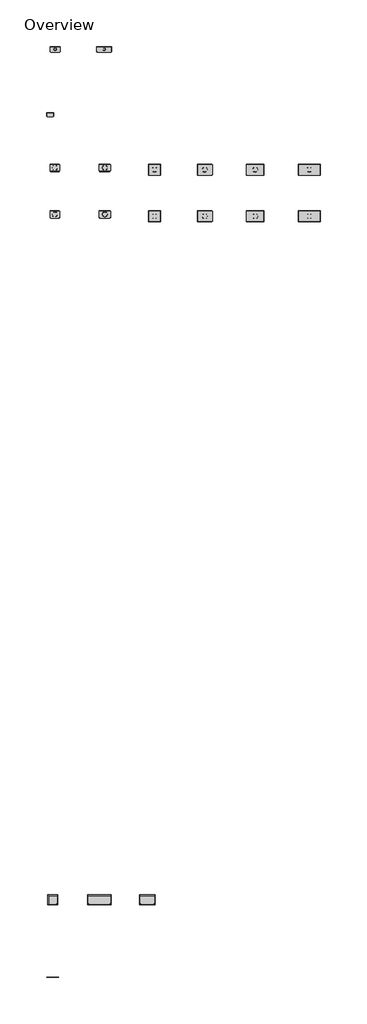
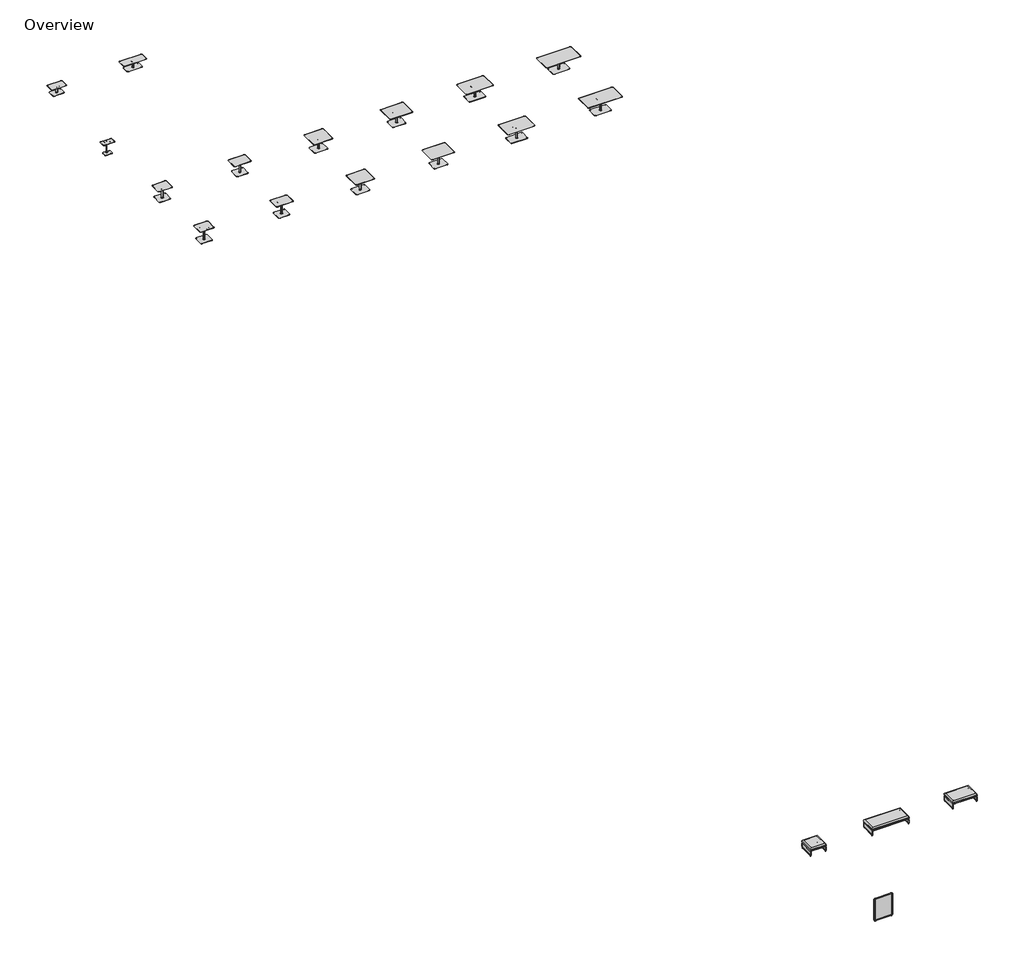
# One storey, incomplete: 19 furniture elements.
"""IFC4 building model written with IfcOpenShell, lengths in millimetres."""

from ifc_helpers import new_model, si_unit, origin, place, context, project, spatial, transform, mapped, element, save
from components import furniture_957b4211, furniture_e01ff0be, furniture_d2e51079, furniture_369bfe71, furniture_2e01fce7, furniture_39884a35, furniture_a224f28c, furniture_45d79633, furniture_f893dfc3, furniture_f20d2360, furniture_f47115b3, furniture_d3c9a054, furniture_e7e90b19, furniture_e72bf5eb, furniture_a1049126, furniture_50h_e364f507, one_seat_c15789ba, three_seat_fe4ea9a4, two_seat_4937a690

model = new_model("IFC4")

# Units and contexts
model_context = context("Model", 3, world=origin())
ifc_project = project(units=[si_unit("LENGTHUNIT", "METRE", prefix="MILLI")], contexts=[model_context])

# Site, building, storey
site = spatial("IfcSite", under=ifc_project)
building = spatial("IfcBuilding", under=site)
storey = spatial("IfcBuildingStorey", under=building, Name="Overview", Elevation=0.0)

# Furniture
placement = place(None, origin())
furniture_shape = furniture_957b4211(model_context)
element("IfcFurniture", 1, ObjectType="Coalesse_AM_Table_Occasional_Lagunitas : 18D x 32W", at=placement, inside=storey, context=model_context, shape_type="MappedRepresentation", body=[
    mapped(furniture_shape, transform((-12911.136443, 10187.2700634, 0.0), x_axis=(1.0, 0.0, 0.0), y_axis=(0.0, 1.0, 0.0), z_axis=(0.0, 0.0, 1.0))),
])
furniture_2_shape = furniture_e01ff0be(model_context)
element("IfcFurniture", 2, ObjectType="Coalesse_AM_Table_Occasional_Lagunitas : 18D x 48W", at=placement, inside=storey, context=model_context, shape_type="MappedRepresentation", body=[
    mapped(furniture_2_shape, transform((-8897.936443, 10187.2700634, 0.0), x_axis=(1.0, 0.0, 0.0), y_axis=(0.0, 1.0, 0.0), z_axis=(0.0, 0.0, 1.0))),
])
furniture_3_shape = furniture_d2e51079(model_context)
element("IfcFurniture", 3, ObjectType="Coalesse_AM_Table_Occasional_Lagunitas_Personal : 13D x 24W", at=placement, inside=storey, context=model_context, shape_type="MappedRepresentation", body=[
    mapped(furniture_3_shape, transform((-13317.536443, 4853.5613619, 0.0), x_axis=(1.0, 0.0, 0.0), y_axis=(0.0, 1.0, 0.0), z_axis=(0.0, 0.0, 1.0))),
])
furniture_4_shape = furniture_369bfe71(model_context)
element("IfcFurniture", 4, ObjectType="Coalesse_AM_Table_Occasional_Lagunitas_Work : 26H x 36D x 72W", at=placement, inside=storey, context=model_context, shape_type="MappedRepresentation", body=[
    mapped(furniture_4_shape, transform((7878.763557, 358.0501752, 0.0), x_axis=(1.0, 0.0, 0.0), y_axis=(0.0, 1.0, 0.0), z_axis=(0.0, 0.0, 1.0))),
])
furniture_5_shape = furniture_2e01fce7(model_context)
element("IfcFurniture", 5, ObjectType="Coalesse_AM_Table_Occasional_Lagunitas_Work : 26H x 36D x 57W", at=placement, inside=storey, context=model_context, shape_type="MappedRepresentation", body=[
    mapped(furniture_5_shape, transform((3459.163557, 358.0501752, 0.0), x_axis=(1.0, 0.0, 0.0), y_axis=(0.0, 1.0, 0.0), z_axis=(0.0, 0.0, 1.0))),
])
furniture_6_shape = furniture_39884a35(model_context)
element("IfcFurniture", 6, ObjectType="Coalesse_AM_Table_Occasional_Lagunitas_Work : 26H x 36D x 48W", at=placement, inside=storey, context=model_context, shape_type="MappedRepresentation", body=[
    mapped(furniture_6_shape, transform((-668.336443, 358.0501752, 0.0), x_axis=(1.0, 0.0, 0.0), y_axis=(0.0, 1.0, 0.0), z_axis=(0.0, 0.0, 1.0))),
])
furniture_7_shape = furniture_a224f28c(model_context)
element("IfcFurniture", 7, ObjectType="Coalesse_AM_Table_Occasional_Lagunitas_Work : 26H x 36D x 40W", at=placement, inside=storey, context=model_context, shape_type="MappedRepresentation", body=[
    mapped(furniture_7_shape, transform((-4783.136443, 358.0501752, 0.0), x_axis=(1.0, 0.0, 0.0), y_axis=(0.0, 1.0, 0.0), z_axis=(0.0, 0.0, 1.0))),
])
furniture_8_shape = furniture_45d79633(model_context)
element("IfcFurniture", 8, ObjectType="Coalesse_AM_Table_Occasional_Lagunitas_Work : 26H x 24D x 36W", at=placement, inside=storey, context=model_context, shape_type="MappedRepresentation", body=[
    mapped(furniture_8_shape, transform((-8847.136443, 510.4526603, 0.0), x_axis=(1.0, 0.0, 0.0), y_axis=(0.0, 1.0, 0.0), z_axis=(0.0, 0.0, 1.0))),
])
furniture_9_shape = furniture_f893dfc3(model_context)
element("IfcFurniture", 9, ObjectType="Coalesse_AM_Table_Occasional_Lagunitas_Work : 26H x 24D x 30W", at=placement, inside=storey, context=model_context, shape_type="MappedRepresentation", body=[
    mapped(furniture_9_shape, transform((-12936.536443, 510.4526603, 0.0), x_axis=(1.0, 0.0, 0.0), y_axis=(0.0, 1.0, 0.0), z_axis=(0.0, 0.0, 1.0))),
])
furniture_10_shape = furniture_f20d2360(model_context)
element("IfcFurniture", 10, ObjectType="Coalesse_AM_Table_Occasional_Lagunitas_Work : 28.5H x 24D x 30W", at=placement, inside=storey, context=model_context, shape_type="MappedRepresentation", body=[
    mapped(furniture_10_shape, transform((-12936.536443, -3299.5473397, 0.0), x_axis=(1.0, 0.0, 0.0), y_axis=(0.0, 1.0, 0.0), z_axis=(0.0, 0.0, 1.0))),
])
furniture_11_shape = furniture_f47115b3(model_context)
element("IfcFurniture", 11, ObjectType="Coalesse_AM_Table_Occasional_Lagunitas_Work : 28.5H x 24D x 36W", at=placement, inside=storey, context=model_context, shape_type="MappedRepresentation", body=[
    mapped(furniture_11_shape, transform((-8847.136443, -3299.5473397, 0.0), x_axis=(1.0, 0.0, 0.0), y_axis=(0.0, 1.0, 0.0), z_axis=(0.0, 0.0, 1.0))),
])
furniture_12_shape = furniture_d3c9a054(model_context)
element("IfcFurniture", 12, ObjectType="Coalesse_AM_Table_Occasional_Lagunitas_Work : 28.5H x 36D x 40W", at=placement, inside=storey, context=model_context, shape_type="MappedRepresentation", body=[
    mapped(furniture_12_shape, transform((-4783.136443, -3451.9498248, 0.0), x_axis=(1.0, 0.0, 0.0), y_axis=(0.0, 1.0, 0.0), z_axis=(0.0, 0.0, 1.0))),
])
furniture_13_shape = furniture_e7e90b19(model_context)
element("IfcFurniture", 13, ObjectType="Coalesse_AM_Table_Occasional_Lagunitas_Work : 28.5H x 36D x 48W", at=placement, inside=storey, context=model_context, shape_type="MappedRepresentation", body=[
    mapped(furniture_13_shape, transform((-668.336443, -3451.9498248, 0.0), x_axis=(1.0, 0.0, 0.0), y_axis=(0.0, 1.0, 0.0), z_axis=(0.0, 0.0, 1.0))),
])
furniture_14_shape = furniture_e72bf5eb(model_context)
element("IfcFurniture", 14, ObjectType="Coalesse_AM_Table_Occasional_Lagunitas_Work : 28.5H x 36D x 57W", at=placement, inside=storey, context=model_context, shape_type="MappedRepresentation", body=[
    mapped(furniture_14_shape, transform((3459.163557, -3451.9498248, 0.0), x_axis=(1.0, 0.0, 0.0), y_axis=(0.0, 1.0, 0.0), z_axis=(0.0, 0.0, 1.0))),
])
furniture_15_shape = furniture_a1049126(model_context)
element("IfcFurniture", 15, ObjectType="Coalesse_AM_Table_Occasional_Lagunitas_Work : 28.5H x 36D x 72W", at=placement, inside=storey, context=model_context, shape_type="MappedRepresentation", body=[
    mapped(furniture_15_shape, transform((7878.763557, -3451.9498248, 0.0), x_axis=(1.0, 0.0, 0.0), y_axis=(0.0, 1.0, 0.0), z_axis=(0.0, 0.0, 1.0))),
])
furniture_50h_shape = furniture_50h_e364f507(model_context)
element("IfcFurniture", 16, ObjectType="Coalesse_AM_Seating_LoungeChair_Lagunitas_BoothScreen : 50H", at=placement, inside=storey, context=model_context, shape_type="MappedRepresentation", body=[
    mapped(furniture_50h_shape, transform((-13120.1139734, -66062.1921452, 0.0), x_axis=(1.0, 0.0, 0.0), y_axis=(0.0, 1.0, 0.0), z_axis=(0.0, 0.0, 1.0))),
])
one_seat_shape = one_seat_c15789ba(model_context)
element("IfcFurniture", 17, ObjectType="Coalesse_AM_Seating_LoungeChair_Lagunitas_Bench : One Seat", at=placement, inside=storey, context=model_context, shape_type="MappedRepresentation", body=[
    mapped(one_seat_shape, transform((-12081.0438699, -59307.5441246, 0.0), x_axis=(1.0, 0.0, 0.0), y_axis=(0.0, 1.0, 0.0), z_axis=(0.0, 0.0, 1.0))),
])
three_seat_shape = three_seat_fe4ea9a4(model_context)
element("IfcFurniture", 18, ObjectType="Coalesse_AM_Seating_LoungeChair_Lagunitas_Bench : Three Seat", at=placement, inside=storey, context=model_context, shape_type="MappedRepresentation", body=[
    mapped(three_seat_shape, transform((-8831.0699734, -59307.5441246, 0.0), x_axis=(1.0, 0.0, 0.0), y_axis=(0.0, 1.0, 0.0), z_axis=(0.0, 0.0, 1.0))),
])
two_seat_shape = two_seat_4937a690(model_context)
element("IfcFurniture", 19, ObjectType="Coalesse_AM_Seating_LoungeChair_Lagunitas_Bench : Two Seat", at=placement, inside=storey, context=model_context, shape_type="MappedRepresentation", body=[
    mapped(two_seat_shape, transform((-4587.2316929, -59307.5441246, 0.0), x_axis=(1.0, 0.0, 0.0), y_axis=(0.0, 1.0, 0.0), z_axis=(0.0, 0.0, 1.0))),
])

save(model, "model.ifc")
